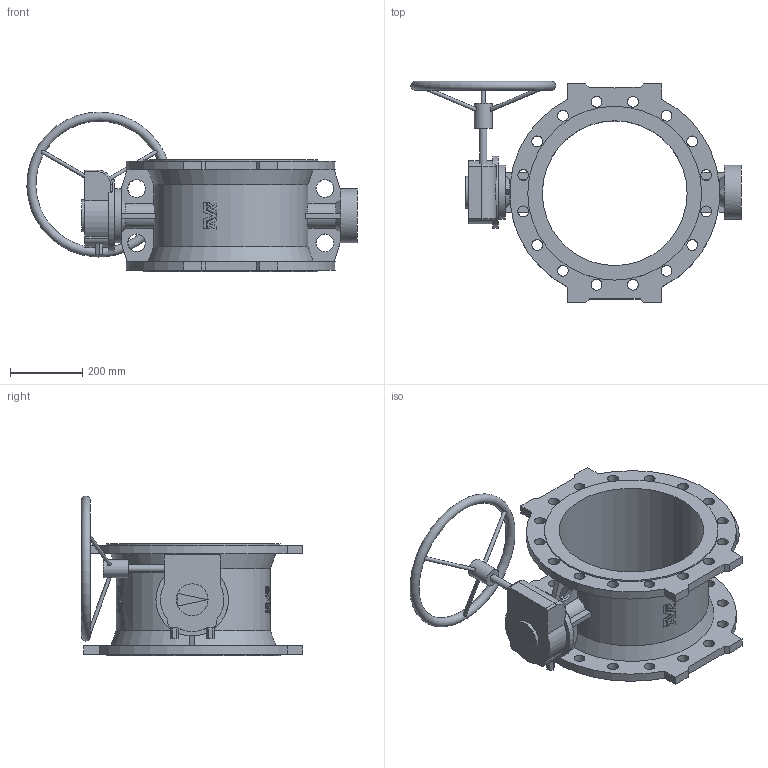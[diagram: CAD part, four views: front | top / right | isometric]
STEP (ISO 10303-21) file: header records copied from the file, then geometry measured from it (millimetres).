
FILE_DESCRIPTION (( 'STEP AP203' ), '1' );
FILE_NAME ('O_756_1_DN400_0XX00_AA0_step.step', '2016-03-04T11:41:43', ( 'Windows User' ), ( 'AVK' ), 'SwSTEP 2.0', 'SolidWorks 2012', '' );
FILE_SCHEMA (( 'CONFIG_CONTROL_DESIGN' ));
Length unit declared in the file: millimetre
Products named in the file (1): O_756_1_DN400_0XX00_AA0_step
Bounding box: 911.85 x 610.99 x 441 mm (x, y, z)
Volume: 17934015.4 mm3; surface area: 1793990.3 mm2
Topology: 1 solids, 1 shells, 351 faces, 1020 edges, 688 vertices
Faces by surface type: plane 173, bspline 78, cylinder 77, cone 20, torus 3
Full cylindrical faces by diameter (mm): 10 x3, 20 x1, 30 x32, 50 x1, 88 x1, 150 x2, 200 x1, 400 x1, 480 x2
Entity records: 15766 total; most frequent: CARTESIAN_POINT 7302, ORIENTED_EDGE 1860, DIRECTION 1389, EDGE_CURVE 930, VERTEX_POINT 651, EDGE_LOOP 499, VECTOR 481, LINE 481
